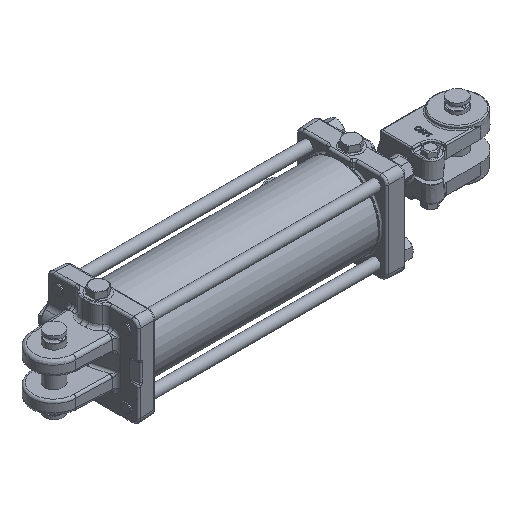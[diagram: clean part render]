
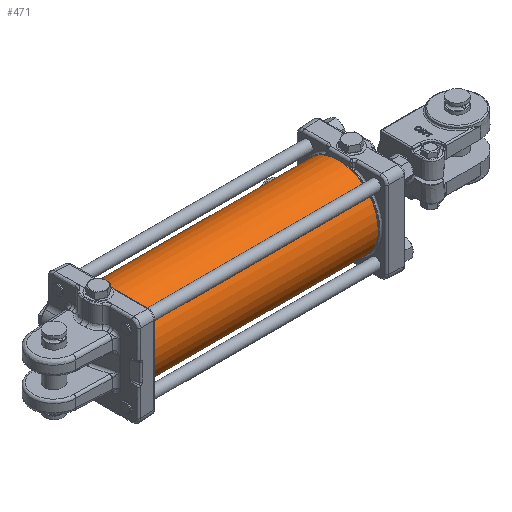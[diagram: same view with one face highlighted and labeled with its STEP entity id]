
A CAD part, isometric view. The second image highlights one B-rep face of the part: STEP entity #471.
In plain terms, the highlighted cylindrical face has radius 55.562 mm (diameter 111.125 mm), a full revolution.
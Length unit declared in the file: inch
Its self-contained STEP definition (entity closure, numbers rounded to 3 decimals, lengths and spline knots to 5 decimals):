
#210=CARTESIAN_POINT('',(-0.967,2.18682,0.0545));
#211=VERTEX_POINT('',#210);
#212=CARTESIAN_POINT('',(-0.967,2.18682,0.0545));
#213=CARTESIAN_POINT('',(-0.97384,2.18682,0.0545));
#214=CARTESIAN_POINT('',(-0.98114,2.18686,0.05313));
#215=CARTESIAN_POINT('',(-0.99457,2.18698,0.04757));
#216=CARTESIAN_POINT('',(-1.0007,2.18708,0.04338));
#217=CARTESIAN_POINT('',(-1.01038,2.18725,0.0337));
#218=CARTESIAN_POINT('',(-1.01457,2.18734,0.02757));
#219=CARTESIAN_POINT('',(-1.02013,2.18746,0.01414));
#220=CARTESIAN_POINT('',(-1.0215,2.1875,0.00684));
#221=CARTESIAN_POINT('',(-1.0215,2.1875,-0.00684));
#222=CARTESIAN_POINT('',(-1.02013,2.18746,-0.01414));
#223=CARTESIAN_POINT('',(-1.01457,2.18734,-0.02757));
#224=CARTESIAN_POINT('',(-1.01038,2.18725,-0.0337));
#225=CARTESIAN_POINT('',(-1.0007,2.18708,-0.04338));
#226=CARTESIAN_POINT('',(-0.99457,2.18698,-0.04757));
#227=CARTESIAN_POINT('',(-0.98114,2.18686,-0.05313));
#228=CARTESIAN_POINT('',(-0.97384,2.18682,-0.0545));
#229=CARTESIAN_POINT('',(-0.96016,2.18682,-0.0545));
#230=CARTESIAN_POINT('',(-0.95286,2.18686,-0.05313));
#231=CARTESIAN_POINT('',(-0.93943,2.18698,-0.04757));
#232=CARTESIAN_POINT('',(-0.9333,2.18708,-0.04338));
#233=CARTESIAN_POINT('',(-0.92362,2.18725,-0.0337));
#234=CARTESIAN_POINT('',(-0.91943,2.18734,-0.02757));
#235=CARTESIAN_POINT('',(-0.91387,2.18746,-0.01414));
#236=CARTESIAN_POINT('',(-0.9125,2.1875,-0.00684));
#237=CARTESIAN_POINT('',(-0.9125,2.1875,0.00684));
#238=CARTESIAN_POINT('',(-0.91387,2.18746,0.01414));
#239=CARTESIAN_POINT('',(-0.91943,2.18734,0.02757));
#240=CARTESIAN_POINT('',(-0.92362,2.18725,0.0337));
#241=CARTESIAN_POINT('',(-0.9333,2.18708,0.04338));
#242=CARTESIAN_POINT('',(-0.93943,2.18698,0.04757));
#243=CARTESIAN_POINT('',(-0.95286,2.18686,0.05313));
#244=CARTESIAN_POINT('',(-0.96016,2.18682,0.0545));
#245=CARTESIAN_POINT('',(-0.967,2.18682,0.0545));
#246=B_SPLINE_CURVE_WITH_KNOTS('',3,(#212,#213,#214,#215,#216,#217,#218,#219,#220,#221,#222,#223,#224,#225,#226,#227,#228,#229,#230,#231,#232,#233,#234,#235,#236,#237,#238,#239,#240,#241,#242,#243,#244,#245),.UNSPECIFIED.,.T.,.U.,(4,2,2,2,2,2,2,2,2,2,2,2,2,2,2,2,4),(0.0,0.05215,0.10429,0.15644,0.20859,0.26074,0.31288,0.36503,0.41718,0.46932,0.52147,0.57362,0.62576,0.67791,0.73006,0.78221,0.83435),.UNSPECIFIED.);
#247=EDGE_CURVE('',#211,#211,#246,.T.);
#298=CARTESIAN_POINT('',(-1.347,2.18728,0.031));
#299=VERTEX_POINT('',#298);
#300=CARTESIAN_POINT('',(-1.347,2.18728,0.031));
#301=CARTESIAN_POINT('',(-1.35089,2.18728,0.031));
#302=CARTESIAN_POINT('',(-1.35504,2.18729,0.03022));
#303=CARTESIAN_POINT('',(-1.36268,2.18733,0.02706));
#304=CARTESIAN_POINT('',(-1.36617,2.18736,0.02467));
#305=CARTESIAN_POINT('',(-1.37167,2.18742,0.01917));
#306=CARTESIAN_POINT('',(-1.37406,2.18745,0.01568));
#307=CARTESIAN_POINT('',(-1.37722,2.18749,0.00804));
#308=CARTESIAN_POINT('',(-1.378,2.1875,0.00389));
#309=CARTESIAN_POINT('',(-1.378,2.1875,-0.00389));
#310=CARTESIAN_POINT('',(-1.37722,2.18749,-0.00804));
#311=CARTESIAN_POINT('',(-1.37406,2.18745,-0.01568));
#312=CARTESIAN_POINT('',(-1.37167,2.18742,-0.01917));
#313=CARTESIAN_POINT('',(-1.36617,2.18736,-0.02467));
#314=CARTESIAN_POINT('',(-1.36268,2.18733,-0.02706));
#315=CARTESIAN_POINT('',(-1.35504,2.18729,-0.03022));
#316=CARTESIAN_POINT('',(-1.35089,2.18728,-0.031));
#317=CARTESIAN_POINT('',(-1.34311,2.18728,-0.031));
#318=CARTESIAN_POINT('',(-1.33896,2.18729,-0.03022));
#319=CARTESIAN_POINT('',(-1.33132,2.18733,-0.02706));
#320=CARTESIAN_POINT('',(-1.32783,2.18736,-0.02467));
#321=CARTESIAN_POINT('',(-1.32233,2.18742,-0.01917));
#322=CARTESIAN_POINT('',(-1.31994,2.18745,-0.01568));
#323=CARTESIAN_POINT('',(-1.31678,2.18749,-0.00804));
#324=CARTESIAN_POINT('',(-1.316,2.1875,-0.00389));
#325=CARTESIAN_POINT('',(-1.316,2.1875,0.00389));
#326=CARTESIAN_POINT('',(-1.31678,2.18749,0.00804));
#327=CARTESIAN_POINT('',(-1.31994,2.18745,0.01568));
#328=CARTESIAN_POINT('',(-1.32233,2.18742,0.01917));
#329=CARTESIAN_POINT('',(-1.32783,2.18736,0.02467));
#330=CARTESIAN_POINT('',(-1.33132,2.18733,0.02706));
#331=CARTESIAN_POINT('',(-1.33896,2.18729,0.03022));
#332=CARTESIAN_POINT('',(-1.34311,2.18728,0.031));
#333=CARTESIAN_POINT('',(-1.347,2.18728,0.031));
#334=B_SPLINE_CURVE_WITH_KNOTS('',3,(#300,#301,#302,#303,#304,#305,#306,#307,#308,#309,#310,#311,#312,#313,#314,#315,#316,#317,#318,#319,#320,#321,#322,#323,#324,#325,#326,#327,#328,#329,#330,#331,#332,#333),.UNSPECIFIED.,.T.,.U.,(4,2,2,2,2,2,2,2,2,2,2,2,2,2,2,2,4),(0.0,0.02966,0.05932,0.08898,0.11864,0.1483,0.17796,0.20763,0.23729,0.26695,0.29661,0.32627,0.35593,0.38559,0.41525,0.44491,0.47457),.UNSPECIFIED.);
#335=EDGE_CURVE('',#299,#299,#334,.T.);
#345=CARTESIAN_POINT('',(0.,2.1875,0.0));
#346=VERTEX_POINT('',#345);
#347=CARTESIAN_POINT('',(0.,0.0,0.0));
#348=DIRECTION('',(1.0,0.0,0.0));
#349=DIRECTION('',(0.0,1.0,0.0));
#350=AXIS2_PLACEMENT_3D('',#347,#348,#349);
#351=CIRCLE('',#350,2.1875);
#352=EDGE_CURVE('',#346,#346,#351,.T.);
#439=CARTESIAN_POINT('',(-12.469,2.1875,0.0));
#440=VERTEX_POINT('',#439);
#441=CARTESIAN_POINT('',(-12.469,0.0,0.0));
#442=DIRECTION('',(1.0,0.0,0.0));
#443=DIRECTION('',(0.0,1.0,0.0));
#444=AXIS2_PLACEMENT_3D('',#441,#442,#443);
#445=CIRCLE('',#444,2.1875);
#446=EDGE_CURVE('',#440,#440,#445,.T.);
#454=CARTESIAN_POINT('',(-6.2345,0.0,0.0));
#455=DIRECTION('',(1.0,0.0,0.0));
#456=DIRECTION('',(0.0,1.0,0.0));
#457=AXIS2_PLACEMENT_3D('',#454,#455,#456);
#458=CYLINDRICAL_SURFACE('',#457,2.1875);
#459=ORIENTED_EDGE('',*,*,#352,.F.);
#460=EDGE_LOOP('',(#459));
#461=FACE_OUTER_BOUND('',#460,.T.);
#462=ORIENTED_EDGE('',*,*,#247,.T.);
#463=EDGE_LOOP('',(#462));
#464=FACE_BOUND('',#463,.T.);
#465=ORIENTED_EDGE('',*,*,#335,.T.);
#466=EDGE_LOOP('',(#465));
#467=FACE_BOUND('',#466,.T.);
#468=ORIENTED_EDGE('',*,*,#446,.T.);
#469=EDGE_LOOP('',(#468));
#470=FACE_BOUND('',#469,.T.);
#471=ADVANCED_FACE('',(#461,#464,#467,#470),#458,.T.);
